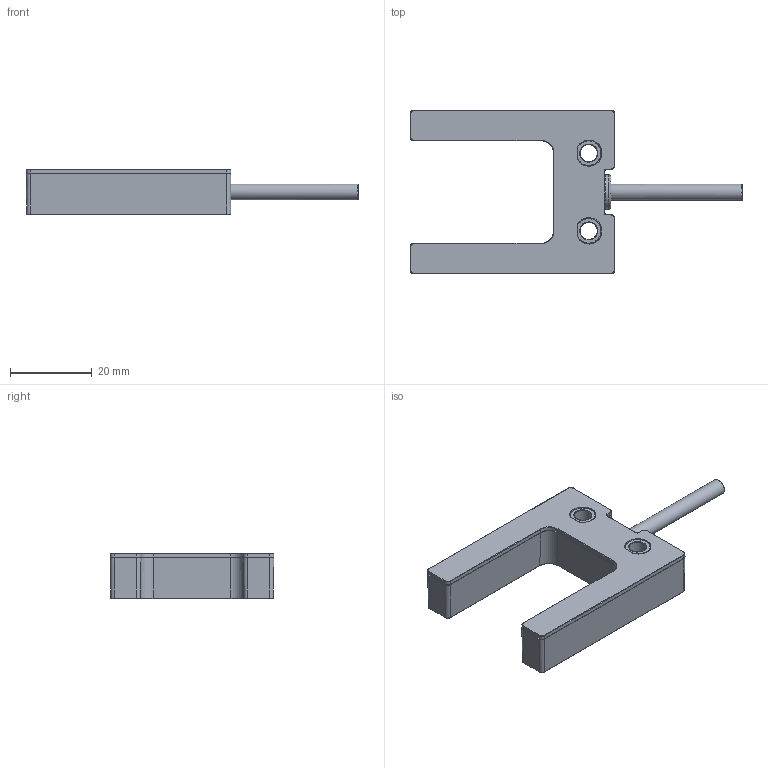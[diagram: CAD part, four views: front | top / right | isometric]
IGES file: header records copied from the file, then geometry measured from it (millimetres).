
Global section: file name: 3DCAD_GS06B_x.igs; native system: NX V2306; preprocessor: SIEMENS PLM Software NX2306.9180; date: 20250428.134859; units: millimetre
Bounding box: 81.07 x 40 x 11.2 mm (x, y, z)
Surface area: 10922.2 mm2 (no closed solid volume)
Topology: 0 solids, 0 shells, 391 faces, 2475 edges, 2455 vertices
Faces by surface type: bspline 391
